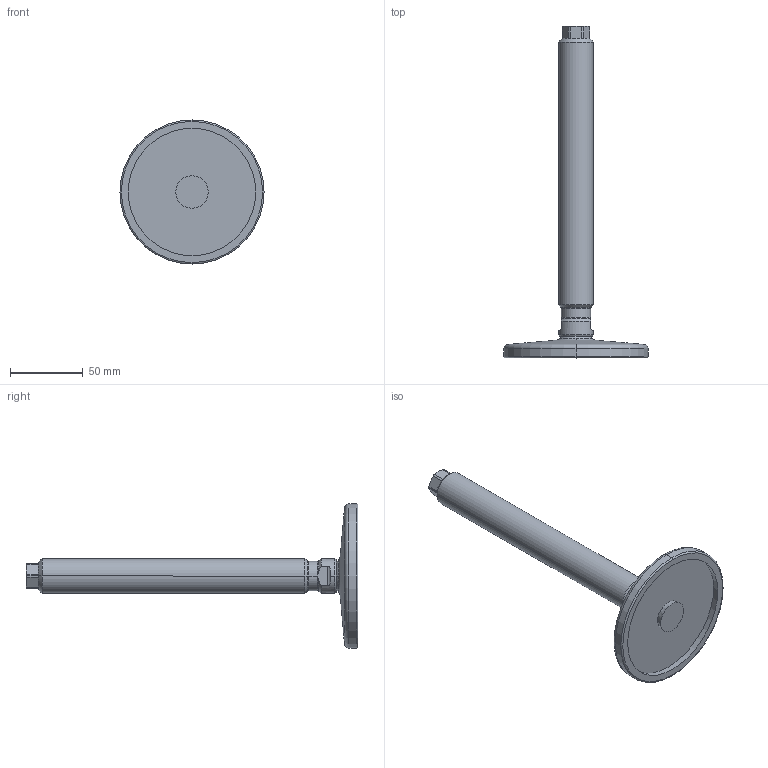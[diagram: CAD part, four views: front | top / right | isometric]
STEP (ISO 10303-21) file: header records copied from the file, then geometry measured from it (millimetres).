
FILE_DESCRIPTION (( 'STEP AP214' ), '1' );
FILE_NAME ('21-100-M24-200-D0-V.step', '2020-10-02T17:36:51', ( '' ), ( '' ), 'SwSTEP 2.0', 'SolidWorks 2019', '' );
FILE_SCHEMA (( 'AUTOMOTIVE_DESIGN' ));
Length unit declared in the file: millimetre
Products named in the file (3): WB21_Fußteller 21^WB21_V_D0-100-R14-B9 (M24); 21-100-M24-200-D0-V; WB21_Spindel_V^WB21_V_M24-200
Assembly tree (2 placements, depth 2):
  21-100-M24-200-D0-V
    WB21_Fußteller 21^WB21_V_D0-100-R14-B9 (M24)
    WB21_Spindel_V^WB21_V_M24-200
Bounding box: 99 x 227.9 x 99 mm (x, y, z)
Volume: 147555.3 mm3; surface area: 36459.5 mm2
Topology: 2 solids, 2 shells, 79 faces, 177 edges, 105 vertices
Faces by surface type: cylinder 23, cone 21, plane 21, torus 10, sphere 4
Entity records: 2446 total; most frequent: CARTESIAN_POINT 530, DIRECTION 406, ORIENTED_EDGE 354, EDGE_CURVE 177, AXIS2_PLACEMENT_3D 173, VERTEX_POINT 105, CIRCLE 89, EDGE_LOOP 82
